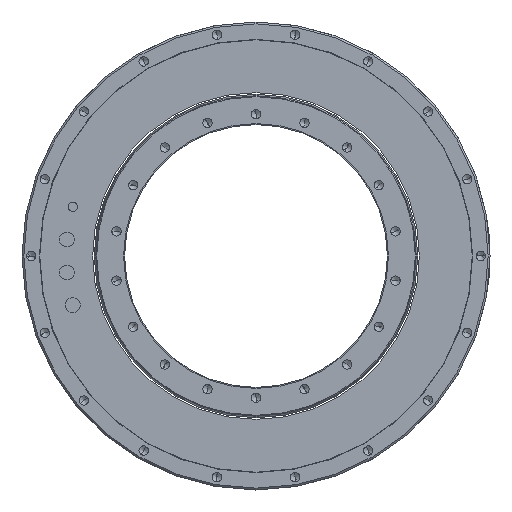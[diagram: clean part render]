
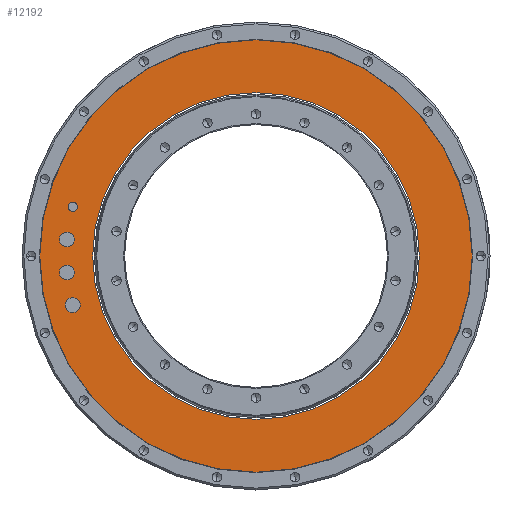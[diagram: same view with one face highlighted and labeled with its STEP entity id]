
A CAD part, left-side view. The second image highlights one B-rep face of the part: STEP entity #12192.
In plain terms, the highlighted planar face has unit normal (-1, 0, 0).
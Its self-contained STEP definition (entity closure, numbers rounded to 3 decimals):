
#11771=CARTESIAN_POINT('',(-130.,0.,0.));
#11772=DIRECTION('',(-1.,0.,0.));
#11773=DIRECTION('',(0.,1.,0.));
#11774=AXIS2_PLACEMENT_3D('',#11771,#11772,#11773);
#11776=CARTESIAN_POINT('',(-130.,0.,0.));
#11777=DIRECTION('',(1.,0.,0.));
#11778=DIRECTION('',(0.,1.,0.));
#11779=AXIS2_PLACEMENT_3D('',#11776,#11777,#11778);
#11781=CARTESIAN_POINT('',(-130.,0.,0.));
#11782=DIRECTION('',(-1.,0.,0.));
#11783=DIRECTION('',(0.,1.,0.));
#11784=AXIS2_PLACEMENT_3D('',#11781,#11782,#11783);
#11786=CARTESIAN_POINT('',(-130.,0.,0.));
#11787=DIRECTION('',(1.,0.,0.));
#11788=DIRECTION('',(0.,1.,0.));
#11789=AXIS2_PLACEMENT_3D('',#11786,#11787,#11788);
#11791=CARTESIAN_POINT('',(-130.,98.307,-26.341));
#11792=DIRECTION('',(-1.,0.,0.));
#11793=DIRECTION('',(0.,0.,1.));
#11794=AXIS2_PLACEMENT_3D('',#11791,#11792,#11793);
#11796=CARTESIAN_POINT('',(-130.,98.307,-26.341));
#11797=DIRECTION('',(-1.,0.,0.));
#11798=DIRECTION('',(0.,0.,-1.));
#11799=AXIS2_PLACEMENT_3D('',#11796,#11797,#11798);
#11801=CARTESIAN_POINT('',(-130.,98.307,26.341));
#11802=DIRECTION('',(-1.,0.,0.));
#11803=DIRECTION('',(0.,0.,1.));
#11804=AXIS2_PLACEMENT_3D('',#11801,#11802,#11803);
#11806=CARTESIAN_POINT('',(-130.,98.307,26.341));
#11807=DIRECTION('',(-1.,0.,0.));
#11808=DIRECTION('',(0.,0.,-1.));
#11809=AXIS2_PLACEMENT_3D('',#11806,#11807,#11808);
#11811=CARTESIAN_POINT('',(-130.,101.388,8.87));
#11812=DIRECTION('',(-1.,0.,0.));
#11813=DIRECTION('',(0.,0.,1.));
#11814=AXIS2_PLACEMENT_3D('',#11811,#11812,#11813);
#11816=CARTESIAN_POINT('',(-130.,101.388,8.87));
#11817=DIRECTION('',(-1.,0.,0.));
#11818=DIRECTION('',(0.,0.,-1.));
#11819=AXIS2_PLACEMENT_3D('',#11816,#11817,#11818);
#11821=CARTESIAN_POINT('',(-130.,101.388,-8.87));
#11822=DIRECTION('',(-1.,0.,0.));
#11823=DIRECTION('',(0.,0.,1.));
#11824=AXIS2_PLACEMENT_3D('',#11821,#11822,#11823);
#11826=CARTESIAN_POINT('',(-130.,101.388,-8.87));
#11827=DIRECTION('',(-1.,0.,0.));
#11828=DIRECTION('',(0.,0.,-1.));
#11829=AXIS2_PLACEMENT_3D('',#11826,#11827,#11828);
#11980=CARTESIAN_POINT('',(-130.,115.95,0.));
#11982=VERTEX_POINT('',#11980);
#11983=CARTESIAN_POINT('',(-130.,87.6,0.));
#11985=VERTEX_POINT('',#11983);
#12000=CARTESIAN_POINT('',(-130.,-115.95,0.));
#12002=VERTEX_POINT('',#12000);
#12003=CARTESIAN_POINT('',(-130.,-87.6,0.));
#12005=VERTEX_POINT('',#12003);
#12035=CARTESIAN_POINT('',(-130.,98.307,-22.341));
#12036=CARTESIAN_POINT('',(-130.,98.307,-30.341));
#12037=VERTEX_POINT('',#12035);
#12038=VERTEX_POINT('',#12036);
#12039=CARTESIAN_POINT('',(-130.,98.307,28.841));
#12040=CARTESIAN_POINT('',(-130.,98.307,23.841));
#12041=VERTEX_POINT('',#12039);
#12042=VERTEX_POINT('',#12040);
#12043=CARTESIAN_POINT('',(-130.,101.388,12.87));
#12044=CARTESIAN_POINT('',(-130.,101.388,4.87));
#12045=VERTEX_POINT('',#12043);
#12046=VERTEX_POINT('',#12044);
#12047=CARTESIAN_POINT('',(-130.,101.388,-4.87));
#12048=CARTESIAN_POINT('',(-130.,101.388,-12.87));
#12049=VERTEX_POINT('',#12047);
#12050=VERTEX_POINT('',#12048);
#12153=CARTESIAN_POINT('',(-130.,0.,0.));
#12154=DIRECTION('',(1.,0.,0.));
#12155=DIRECTION('',(0.,-1.,0.));
#12156=AXIS2_PLACEMENT_3D('',#12153,#12154,#12155);
#12157=PLANE('',#12156);
#12159=ORIENTED_EDGE('',*,*,#12158,.F.);
#12161=ORIENTED_EDGE('',*,*,#12160,.T.);
#12162=EDGE_LOOP('',(#12159,#12161));
#12163=FACE_OUTER_BOUND('',#12162,.F.);
#12164=ORIENTED_EDGE('',*,*,#12146,.F.);
#12165=ORIENTED_EDGE('',*,*,#12135,.T.);
#12166=EDGE_LOOP('',(#12164,#12165));
#12167=FACE_BOUND('',#12166,.F.);
#12169=ORIENTED_EDGE('',*,*,#12168,.T.);
#12171=ORIENTED_EDGE('',*,*,#12170,.T.);
#12172=EDGE_LOOP('',(#12169,#12171));
#12173=FACE_BOUND('',#12172,.F.);
#12175=ORIENTED_EDGE('',*,*,#12174,.T.);
#12177=ORIENTED_EDGE('',*,*,#12176,.T.);
#12178=EDGE_LOOP('',(#12175,#12177));
#12179=FACE_BOUND('',#12178,.F.);
#12181=ORIENTED_EDGE('',*,*,#12180,.T.);
#12183=ORIENTED_EDGE('',*,*,#12182,.T.);
#12184=EDGE_LOOP('',(#12181,#12183));
#12185=FACE_BOUND('',#12184,.F.);
#12187=ORIENTED_EDGE('',*,*,#12186,.T.);
#12189=ORIENTED_EDGE('',*,*,#12188,.T.);
#12190=EDGE_LOOP('',(#12187,#12189));
#12191=FACE_BOUND('',#12190,.F.);
#12192=ADVANCED_FACE('',(#12163,#12167,#12173,#12179,#12185,#12191),#12157,.F.);
#11775=CIRCLE('',#11774,87.6);
#11780=CIRCLE('',#11779,87.6);
#11785=CIRCLE('',#11784,115.95);
#11790=CIRCLE('',#11789,115.95);
#11795=CIRCLE('',#11794,4.);
#11800=CIRCLE('',#11799,4.);
#11805=CIRCLE('',#11804,2.5);
#11810=CIRCLE('',#11809,2.5);
#11815=CIRCLE('',#11814,4.);
#11820=CIRCLE('',#11819,4.);
#11825=CIRCLE('',#11824,4.);
#11830=CIRCLE('',#11829,4.);
#12135=EDGE_CURVE('',#11985,#12005,#11775,.T.);
#12146=EDGE_CURVE('',#11985,#12005,#11780,.T.);
#12158=EDGE_CURVE('',#11982,#12002,#11785,.T.);
#12160=EDGE_CURVE('',#11982,#12002,#11790,.T.);
#12168=EDGE_CURVE('',#12037,#12038,#11795,.T.);
#12170=EDGE_CURVE('',#12038,#12037,#11800,.T.);
#12174=EDGE_CURVE('',#12041,#12042,#11805,.T.);
#12176=EDGE_CURVE('',#12042,#12041,#11810,.T.);
#12180=EDGE_CURVE('',#12045,#12046,#11815,.T.);
#12182=EDGE_CURVE('',#12046,#12045,#11820,.T.);
#12186=EDGE_CURVE('',#12049,#12050,#11825,.T.);
#12188=EDGE_CURVE('',#12050,#12049,#11830,.T.);
